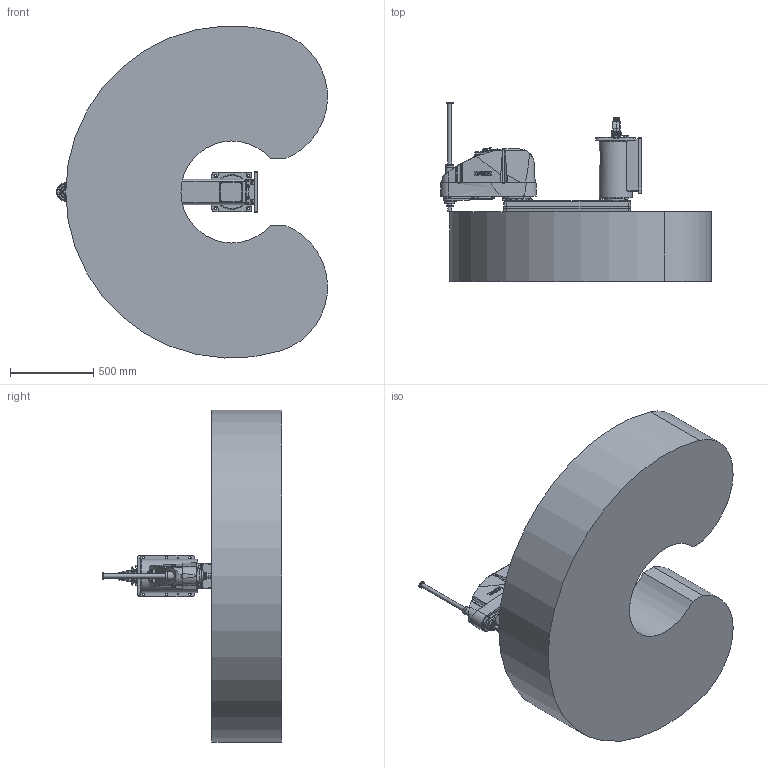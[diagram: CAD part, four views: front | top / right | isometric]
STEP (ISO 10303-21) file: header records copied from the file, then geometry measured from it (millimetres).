
FILE_DESCRIPTION( ( 'STEP AP214' ), '1' );
FILE_NAME( 'C:/Users/9607552/Desktop/GX20-BA04SW_straight.stp', '2023-08-01T09:47:22', ( '' ), ( '' ), ' ', 'PARTsolutions', ' ' );
FILE_SCHEMA( ( 'AUTOMOTIVE_DESIGN { 1 0 10303 214 1 1 1 1 }' ) );
Length unit declared in the file: millimetre
Products named in the file (7): GX20-BA04SWS-W; _Base sw; _Straight-B; _J1 Arm GX10-600 r/w; _J2 Arm GX10-s; _J3 Arm GX10-s (4); _GX10_20B-30_4
Assembly tree (6 placements, depth 2):
  GX20-BA04SWS-W
    _Base sw
    _Straight-B
    _J1 Arm GX10-600 r/w
    _J2 Arm GX10-s
    _J3 Arm GX10-s (4)
    _GX10_20B-30_4
Bounding box: 1630.39 x 1080 x 1998.16 mm (x, y, z)
Volume: 953875989.1 mm3; surface area: 9039913.2 mm2
Topology: 6 solids, 6 shells, 2555 faces, 6274 edges, 4096 vertices
Faces by surface type: plane 1323, cylinder 800, cone 334, torus 65, bspline 32, sphere 1
Full cylindrical faces by diameter (mm): 1 x24, 1.18 x55, 2.5 x2, 3 x32, 3.242 x10, 3.3 x4, 4.2 x4, 4.8 x4, 5.1 x4, 5.25 x2, 5.34 x8, 5.4 x5, 5.5 x16, 6 x2, 6.2 x4, 6.647 x2, 6.8 x2, 7 x23, 7.59 x8, 8 x9, 8.5 x2, 9 x4, 10 x32, 11 x14, 12 x6, 12.25 x1, 13 x8, 14 x20, 14.25 x1, 16 x6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
Entity records: 96769 total; most frequent: CARTESIAN_POINT 18289, DIRECTION 11976, ORIENTED_EDGE 11132, EDGE_CURVE 5566, AXIS2_PLACEMENT_3D 4608, VERTEX_POINT 4003, EDGE_LOOP 3589, FACE_OUTER_BOUND 2949
